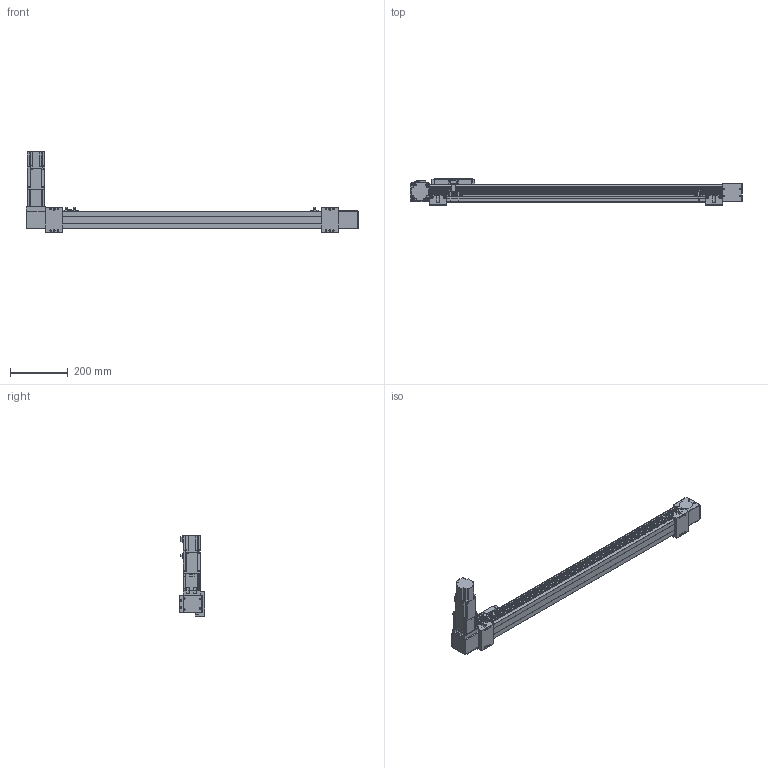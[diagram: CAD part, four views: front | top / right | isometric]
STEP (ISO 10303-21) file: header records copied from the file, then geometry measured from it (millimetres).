
FILE_DESCRIPTION(/* description */ ('STEP AP203'),/* implementation_level */ '2;1');
FILE_NAME(/* name */ 'SK60-P13-S850-BL-T40-C1-N(0)',/* time_stamp */ '2023-04-06T03:36:22+02:00',/* author */ ('License CC BY-ND 4.0'),/* organization */ ('CADENAS'),/* preprocessor_version */ 'ST-DEVELOPER v19.3',/* originating_system */ 'PARTsolutions',/* authorisation */ ' ');
FILE_SCHEMA (('CONFIG_CONTROL_DESIGN'));
Length unit declared in the file: millimetre
Products named in the file (11): SK60-P13-S850-BL-T40-C1-N(0); PSC140-sensor; SK60-S450_seat; SK60-S450-BL-C1_slider; SK60_body3; SK60_body6; SK60-BL_body2; T40-p1; SK60_body5; SK60_body4; SK60-S850-BL-C1_body
Assembly tree (17 placements, depth 2):
  SK60-P13-S850-BL-T40-C1-N(0)
    PSC140-sensor  x3
    SK60-S450_seat  x2
    SK60-S450-BL-C1_slider
    SK60_body3  x3
    SK60_body6  x2
    SK60-BL_body2  x2
    T40-p1
    SK60_body5
    SK60_body4
    SK60-S850-BL-C1_body
Bounding box: 1150 x 90 x 278.2 mm (x, y, z)
Volume: 4496531.8 mm3; surface area: 616544 mm2
Topology: 17 solids, 21 shells, 834 faces, 2109 edges, 1394 vertices
Faces by surface type: plane 544, cylinder 266, cone 22, torus 2
Full cylindrical faces by diameter (mm): 2.8 x3, 3.3 x4, 4.2 x8, 4.5 x26, 4.6 x3, 4.917 x16, 5 x2, 5.478 x4, 5.5 x19, 6.5 x4, 8 x4, 8.5 x4, 9.988 x4, 10 x8, 13.556 x1, 14 x1, 14.586 x1, 19.692 x1, 38.432 x2, 43 x1, 44 x3, 47 x2, 50 x2
Entity records: 19371 total; most frequent: DIRECTION 3292, CARTESIAN_POINT 3289, ORIENTED_EDGE 3050, EDGE_CURVE 1525, AXIS2_PLACEMENT_3D 1100, LINE 1092, VECTOR 1092, VERTEX_POINT 1077
